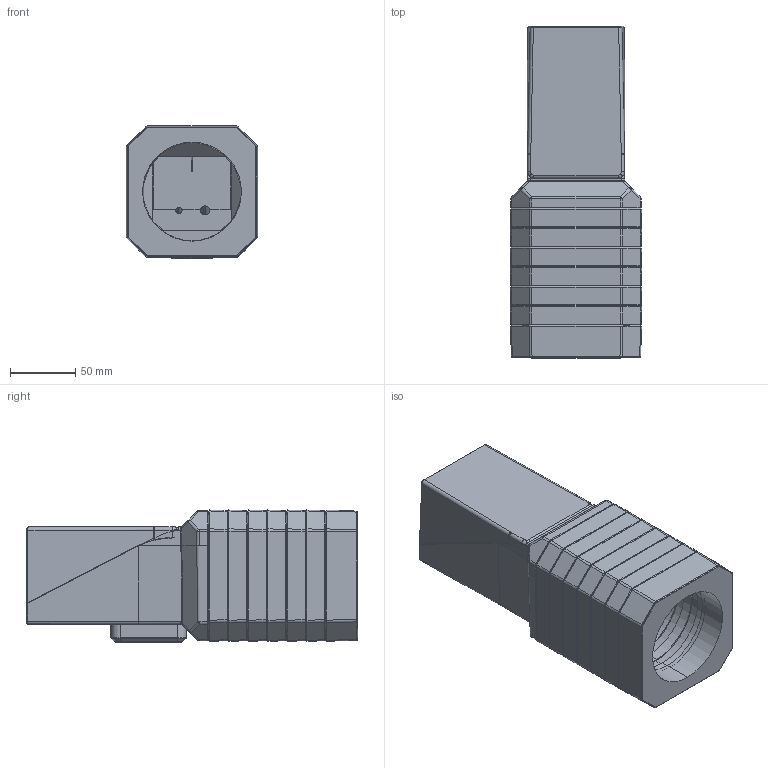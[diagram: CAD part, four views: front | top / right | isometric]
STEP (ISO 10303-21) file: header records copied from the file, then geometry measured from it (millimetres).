
FILE_DESCRIPTION (( 'STEP AP214' ), '1' );
FILE_NAME ('GET_CAM_XL_Housing_Outer_Topassy_6_2022-11-11.STEP', '2022-11-11T14:48:03', ( '' ), ( '' ), 'SwSTEP 2.0', 'SolidWorks 2020', '' );
FILE_SCHEMA (( 'AUTOMOTIVE_DESIGN' ));
Length unit declared in the file: millimetre
Products named in the file (5): GET_CAM_XL_Housing_Cap_Outer_IM; GET_CAM_XL_Housing_FrontRing_Outer_IM; GET_CAM_XL_Housing_Main_Outer_IM; GET_CAM_XL_Housing_Outer_Topassy_6_2022-11-11; GET_CAM_XL_ModuleRing_Outer_IM
Assembly tree (9 placements, depth 2):
  GET_CAM_XL_Housing_Outer_Topassy_6_2022-11-11
    GET_CAM_XL_Housing_Main_Outer_IM
    GET_CAM_XL_Housing_Cap_Outer_IM
    GET_CAM_XL_ModuleRing_Outer_IM  x6
    GET_CAM_XL_Housing_FrontRing_Outer_IM
Bounding box: 100.98 x 255.2 x 101.49 mm (x, y, z)
Volume: 898351 mm3; surface area: 260856.8 mm2
Topology: 9 solids, 9 shells, 828 faces, 1897 edges, 1118 vertices
Faces by surface type: plane 308, cylinder 208, bspline 174, torus 70, cone 56, sphere 12
Entity records: 16310 total; most frequent: CARTESIAN_POINT 6058, ORIENTED_EDGE 2274, DIRECTION 1887, EDGE_CURVE 1137, AXIS2_PLACEMENT_3D 703, VERTEX_POINT 678, EDGE_LOOP 505, ADVANCED_FACE 483
